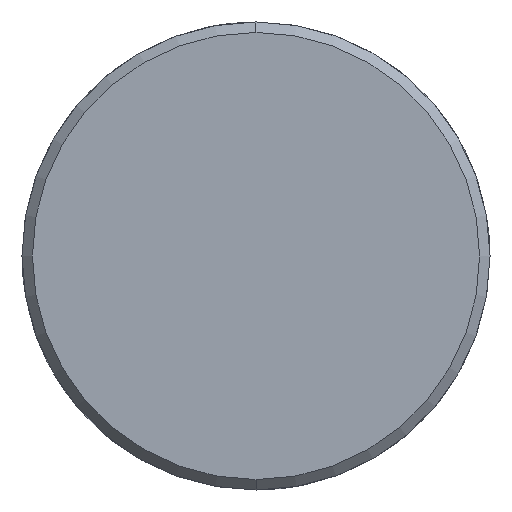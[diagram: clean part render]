
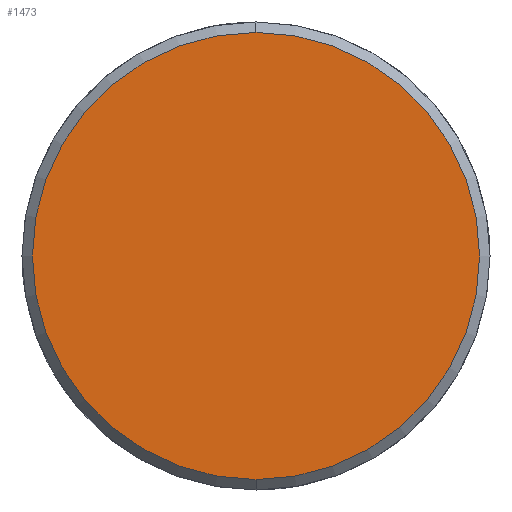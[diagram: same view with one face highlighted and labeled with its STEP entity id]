
A CAD part, left-side view. The second image highlights one B-rep face of the part: STEP entity #1473.
In plain terms, the highlighted planar face has unit normal (-1, 0, 0).
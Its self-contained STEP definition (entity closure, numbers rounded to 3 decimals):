
#1405=CARTESIAN_POINT('Vertex',(-7.,0.,-21.5)) ;
#1408=CARTESIAN_POINT('Axis2P3D Location',(-7.,0.,0.)) ;
#1412=CARTESIAN_POINT('Vertex',(-7.,21.5,0.)) ;
#1415=CARTESIAN_POINT('Axis2P3D Location',(-7.,0.,0.)) ;
#1419=CARTESIAN_POINT('Vertex',(-7.,0.,21.5)) ;
#1441=CARTESIAN_POINT('Axis2P3D Location',(-7.,0.,0.)) ;
#1445=CARTESIAN_POINT('Vertex',(-7.,-21.5,0.)) ;
#1448=CARTESIAN_POINT('Axis2P3D Location',(-7.,0.,0.)) ;
#1462=CARTESIAN_POINT('Axis2P3D Location',(-7.,0.,0.)) ;
#1409=DIRECTION('Axis2P3D Direction',(1.,0.,-0.)) ;
#1416=DIRECTION('Axis2P3D Direction',(1.,0.,-0.)) ;
#1442=DIRECTION('Axis2P3D Direction',(1.,0.,-0.)) ;
#1449=DIRECTION('Axis2P3D Direction',(1.,0.,-0.)) ;
#1463=DIRECTION('Axis2P3D Direction',(1.,0.,-0.)) ;
#1464=DIRECTION('Axis2P3D XDirection',(-0.,0.,-1.)) ;
#1410=AXIS2_PLACEMENT_3D('Circle Axis2P3D',#1408,#1409,$) ;
#1417=AXIS2_PLACEMENT_3D('Circle Axis2P3D',#1415,#1416,$) ;
#1443=AXIS2_PLACEMENT_3D('Circle Axis2P3D',#1441,#1442,$) ;
#1450=AXIS2_PLACEMENT_3D('Circle Axis2P3D',#1448,#1449,$) ;
#1465=AXIS2_PLACEMENT_3D('Plane Axis2P3D',#1462,#1463,#1464) ;
#1468=ORIENTED_EDGE('',*,*,#1414,.F.) ;
#1469=ORIENTED_EDGE('',*,*,#1452,.F.) ;
#1470=ORIENTED_EDGE('',*,*,#1447,.F.) ;
#1471=ORIENTED_EDGE('',*,*,#1421,.F.) ;
#1473=ADVANCED_FACE('351-32X96X280',(#1472),#1466,.F.) ;
#1411=CIRCLE('generated circle',#1410,21.5) ;
#1418=CIRCLE('generated circle',#1417,21.5) ;
#1444=CIRCLE('generated circle',#1443,21.5) ;
#1451=CIRCLE('generated circle',#1450,21.5) ;
#1414=EDGE_CURVE('',#1406,#1413,#1411,.T.) ;
#1421=EDGE_CURVE('',#1413,#1420,#1418,.T.) ;
#1447=EDGE_CURVE('',#1420,#1446,#1444,.T.) ;
#1452=EDGE_CURVE('',#1446,#1406,#1451,.T.) ;
#1467=EDGE_LOOP('',(#1468,#1469,#1470,#1471)) ;
#1472=FACE_OUTER_BOUND('',#1467,.T.) ;
#1466=PLANE('Plane',#1465) ;
#1406=VERTEX_POINT('',#1405) ;
#1413=VERTEX_POINT('',#1412) ;
#1420=VERTEX_POINT('',#1419) ;
#1446=VERTEX_POINT('',#1445) ;
